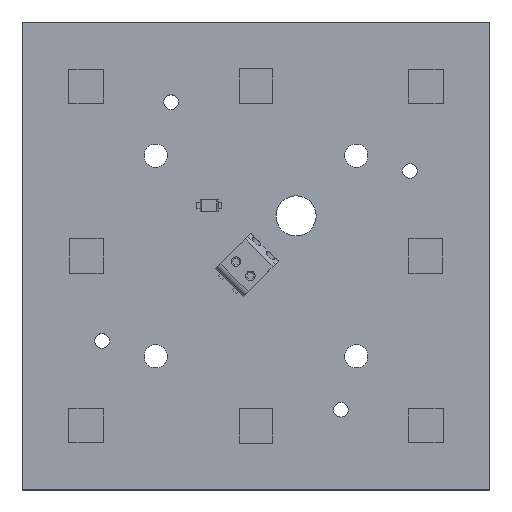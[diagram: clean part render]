
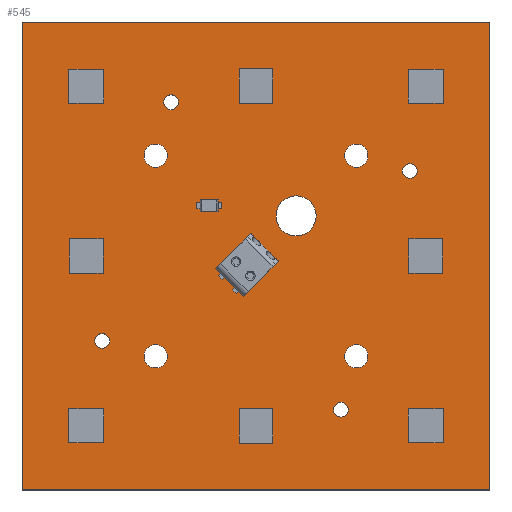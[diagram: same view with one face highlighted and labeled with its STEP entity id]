
A CAD part, top view. The second image highlights one B-rep face of the part: STEP entity #545.
In plain terms, the highlighted planar face has unit normal (0, 0, 1).
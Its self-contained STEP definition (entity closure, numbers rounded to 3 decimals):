
#92 = VERTEX_POINT('',#93);
#93 = CARTESIAN_POINT('',(-3.,-3.,1.6));
#99 = EDGE_CURVE('',#92,#100,#102,.T.);
#100 = VERTEX_POINT('',#101);
#101 = CARTESIAN_POINT('',(-3.,67.,1.6));
#102 = LINE('',#103,#104);
#103 = CARTESIAN_POINT('',(-3.,-3.,1.6));
#104 = VECTOR('',#105,1.);
#105 = DIRECTION('',(0.,1.,0.));
#130 = EDGE_CURVE('',#100,#131,#133,.T.);
#131 = VERTEX_POINT('',#132);
#132 = CARTESIAN_POINT('',(67.,67.,1.6));
#133 = LINE('',#134,#135);
#134 = CARTESIAN_POINT('',(-3.,67.,1.6));
#135 = VECTOR('',#136,1.);
#136 = DIRECTION('',(1.,0.,0.));
#161 = EDGE_CURVE('',#131,#162,#164,.T.);
#162 = VERTEX_POINT('',#163);
#163 = CARTESIAN_POINT('',(67.,-3.,1.6));
#164 = LINE('',#165,#166);
#165 = CARTESIAN_POINT('',(67.,67.,1.6));
#166 = VECTOR('',#167,1.);
#167 = DIRECTION('',(0.,-1.,0.));
#192 = EDGE_CURVE('',#162,#92,#193,.T.);
#193 = LINE('',#194,#195);
#194 = CARTESIAN_POINT('',(67.,-3.,1.6));
#195 = VECTOR('',#196,1.);
#196 = DIRECTION('',(-1.,0.,0.));
#216 = VERTEX_POINT('',#217);
#217 = CARTESIAN_POINT('',(10.1,19.3,1.6));
#223 = EDGE_CURVE('',#216,#216,#224,.T.);
#224 = CIRCLE('',#225,1.1);
#225 = AXIS2_PLACEMENT_3D('',#226,#227,#228);
#226 = CARTESIAN_POINT('',(9.,19.3,1.6));
#227 = DIRECTION('',(0.,0.,1.));
#228 = DIRECTION('',(1.,0.,-0.));
#249 = VERTEX_POINT('',#250);
#250 = CARTESIAN_POINT('',(18.75,17.,1.6));
#256 = EDGE_CURVE('',#249,#249,#257,.T.);
#257 = CIRCLE('',#258,1.75);
#258 = AXIS2_PLACEMENT_3D('',#259,#260,#261);
#259 = CARTESIAN_POINT('',(17.,17.,1.6));
#260 = DIRECTION('',(0.,0.,1.));
#261 = DIRECTION('',(1.,0.,-0.));
#282 = VERTEX_POINT('',#283);
#283 = CARTESIAN_POINT('',(18.75,47.,1.6));
#289 = EDGE_CURVE('',#282,#282,#290,.T.);
#290 = CIRCLE('',#291,1.75);
#291 = AXIS2_PLACEMENT_3D('',#292,#293,#294);
#292 = CARTESIAN_POINT('',(17.,47.,1.6));
#293 = DIRECTION('',(0.,0.,1.));
#294 = DIRECTION('',(1.,0.,-0.));
#315 = VERTEX_POINT('',#316);
#316 = CARTESIAN_POINT('',(20.4,55.,1.6));
#322 = EDGE_CURVE('',#315,#315,#323,.T.);
#323 = CIRCLE('',#324,1.1);
#324 = AXIS2_PLACEMENT_3D('',#325,#326,#327);
#325 = CARTESIAN_POINT('',(19.3,55.,1.6));
#326 = DIRECTION('',(0.,0.,1.));
#327 = DIRECTION('',(1.,0.,-0.));
#348 = VERTEX_POINT('',#349);
#349 = CARTESIAN_POINT('',(45.8,9.,1.6));
#355 = EDGE_CURVE('',#348,#348,#356,.T.);
#356 = CIRCLE('',#357,1.1);
#357 = AXIS2_PLACEMENT_3D('',#358,#359,#360);
#358 = CARTESIAN_POINT('',(44.7,9.,1.6));
#359 = DIRECTION('',(0.,0.,1.));
#360 = DIRECTION('',(1.,0.,-0.));
#381 = VERTEX_POINT('',#382);
#382 = CARTESIAN_POINT('',(48.75,17.,1.6));
#388 = EDGE_CURVE('',#381,#381,#389,.T.);
#389 = CIRCLE('',#390,1.75);
#390 = AXIS2_PLACEMENT_3D('',#391,#392,#393);
#391 = CARTESIAN_POINT('',(47.,17.,1.6));
#392 = DIRECTION('',(0.,0.,1.));
#393 = DIRECTION('',(1.,0.,-0.));
#414 = VERTEX_POINT('',#415);
#415 = CARTESIAN_POINT('',(41.,38.,1.6));
#421 = EDGE_CURVE('',#414,#414,#422,.T.);
#422 = CIRCLE('',#423,3.);
#423 = AXIS2_PLACEMENT_3D('',#424,#425,#426);
#424 = CARTESIAN_POINT('',(38.,38.,1.6));
#425 = DIRECTION('',(0.,0.,1.));
#426 = DIRECTION('',(1.,0.,-0.));
#447 = VERTEX_POINT('',#448);
#448 = CARTESIAN_POINT('',(56.1,44.7,1.6));
#454 = EDGE_CURVE('',#447,#447,#455,.T.);
#455 = CIRCLE('',#456,1.1);
#456 = AXIS2_PLACEMENT_3D('',#457,#458,#459);
#457 = CARTESIAN_POINT('',(55.,44.7,1.6));
#458 = DIRECTION('',(0.,0.,1.));
#459 = DIRECTION('',(1.,0.,-0.));
#480 = VERTEX_POINT('',#481);
#481 = CARTESIAN_POINT('',(48.75,47.,1.6));
#487 = EDGE_CURVE('',#480,#480,#488,.T.);
#488 = CIRCLE('',#489,1.75);
#489 = AXIS2_PLACEMENT_3D('',#490,#491,#492);
#490 = CARTESIAN_POINT('',(47.,47.,1.6));
#491 = DIRECTION('',(0.,0.,1.));
#492 = DIRECTION('',(1.,0.,-0.));
#545 = ADVANCED_FACE('',(#546,#552,#555,#558,#561,#564,#567,#570,#573,
    #576),#579,.F.);
#546 = FACE_BOUND('',#547,.F.);
#547 = EDGE_LOOP('',(#548,#549,#550,#551));
#548 = ORIENTED_EDGE('',*,*,#99,.T.);
#549 = ORIENTED_EDGE('',*,*,#130,.T.);
#550 = ORIENTED_EDGE('',*,*,#161,.T.);
#551 = ORIENTED_EDGE('',*,*,#192,.T.);
#552 = FACE_BOUND('',#553,.F.);
#553 = EDGE_LOOP('',(#554));
#554 = ORIENTED_EDGE('',*,*,#223,.T.);
#555 = FACE_BOUND('',#556,.F.);
#556 = EDGE_LOOP('',(#557));
#557 = ORIENTED_EDGE('',*,*,#256,.T.);
#558 = FACE_BOUND('',#559,.F.);
#559 = EDGE_LOOP('',(#560));
#560 = ORIENTED_EDGE('',*,*,#289,.T.);
#561 = FACE_BOUND('',#562,.F.);
#562 = EDGE_LOOP('',(#563));
#563 = ORIENTED_EDGE('',*,*,#322,.T.);
#564 = FACE_BOUND('',#565,.F.);
#565 = EDGE_LOOP('',(#566));
#566 = ORIENTED_EDGE('',*,*,#355,.T.);
#567 = FACE_BOUND('',#568,.F.);
#568 = EDGE_LOOP('',(#569));
#569 = ORIENTED_EDGE('',*,*,#388,.T.);
#570 = FACE_BOUND('',#571,.F.);
#571 = EDGE_LOOP('',(#572));
#572 = ORIENTED_EDGE('',*,*,#421,.T.);
#573 = FACE_BOUND('',#574,.F.);
#574 = EDGE_LOOP('',(#575));
#575 = ORIENTED_EDGE('',*,*,#454,.T.);
#576 = FACE_BOUND('',#577,.F.);
#577 = EDGE_LOOP('',(#578));
#578 = ORIENTED_EDGE('',*,*,#487,.T.);
#579 = PLANE('',#580);
#580 = AXIS2_PLACEMENT_3D('',#581,#582,#583);
#581 = CARTESIAN_POINT('',(32.,32.,1.6));
#582 = DIRECTION('',(-0.,-0.,-1.));
#583 = DIRECTION('',(-1.,0.,0.));
